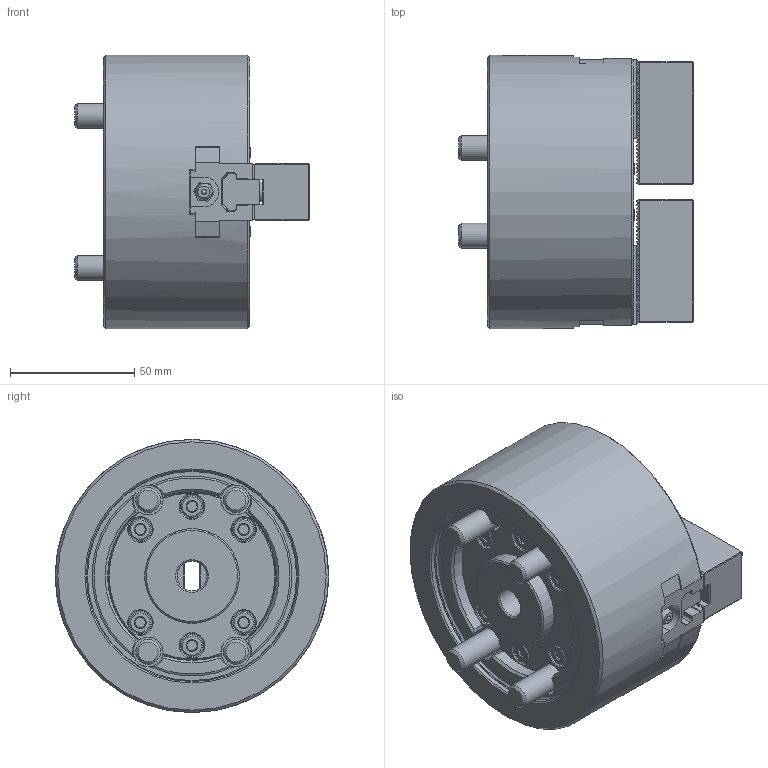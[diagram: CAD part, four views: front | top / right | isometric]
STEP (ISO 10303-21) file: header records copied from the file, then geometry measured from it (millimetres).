
FILE_DESCRIPTION (( 'STEP AP214' ), '1' );
FILE_NAME ('DT1_BT204_OUTSIDE_VIEW_HCL.STEP', '2024-05-08T23:16:08', ( '' ), ( '' ), 'SwSTEP 2.0', 'SolidWorks 2022', '' );
FILE_SCHEMA (( 'AUTOMOTIVE_DESIGN' ));
Length unit declared in the file: millimetre
Products named in the file (9): DT1_BT204_SOFTJAW^DT1-BT204_ﾃﾞﾌｫﾙﾄ; DT1_BT204_BASE^DT1-BT204_ﾃﾞﾌｫﾙﾄ; DT1_BT204_M4x8^DT1-BT204_ﾃﾞﾌｫﾙﾄ; DT1_BT204_M10x60^DT1-BT204_ﾃﾞﾌｫﾙﾄ; DT1_BT204_DRAWNUT^DT1-BT204_ﾃﾞﾌｫﾙﾄ; DT1_BT204_OUTSIDE_VIEW_HCL; DT1_BT204_M8x20^DT1-BT204_ﾃﾞﾌｫﾙﾄ; DT1_BT204_COVER^DT1-BT204_ﾃﾞﾌｫﾙﾄ; DT1_BT204_TNUT^DT1-BT204_ﾃﾞﾌｫﾙﾄ
Assembly tree (19 placements, depth 2):
  DT1_BT204_OUTSIDE_VIEW_HCL
    DT1_BT204_SOFTJAW^DT1-BT204_ﾃﾞﾌｫﾙﾄ  x2
    DT1_BT204_TNUT^DT1-BT204_ﾃﾞﾌｫﾙﾄ  x2
    DT1_BT204_DRAWNUT^DT1-BT204_ﾃﾞﾌｫﾙﾄ
    DT1_BT204_COVER^DT1-BT204_ﾃﾞﾌｫﾙﾄ
    DT1_BT204_BASE^DT1-BT204_ﾃﾞﾌｫﾙﾄ
    DT1_BT204_M4x8^DT1-BT204_ﾃﾞﾌｫﾙﾄ  x4
    DT1_BT204_M8x20^DT1-BT204_ﾃﾞﾌｫﾙﾄ  x4
    DT1_BT204_M10x60^DT1-BT204_ﾃﾞﾌｫﾙﾄ  x4
Bounding box: 94.5 x 110 x 110 mm (x, y, z)
Volume: 536368.2 mm3; surface area: 113407.7 mm2
Topology: 19 solids, 27 shells, 2293 faces, 6316 edges, 4161 vertices
Faces by surface type: plane 1632, cylinder 403, cone 131, bspline 108, torus 15, sphere 4
Full cylindrical faces by diameter (mm): 3.3 x4, 4 x4, 4.5 x4, 6.8 x4, 7.5 x4, 8 x4, 8.5 x8, 8.72 x6, 9.5 x6, 10 x4, 12 x5, 13.27 x4, 13.5 x4, 16.27 x4, 17 x4, 26 x1, 29 x2, 32.5 x1, 35.8 x1, 38 x2, 85 x1, 85.8 x1, 110 x1
Entity records: 61557 total; most frequent: CARTESIAN_POINT 16529, ORIENTED_EDGE 9808, DIRECTION 8183, EDGE_CURVE 4904, LINE 3695, VECTOR 3695, VERTEX_POINT 3298, AXIS2_PLACEMENT_3D 2244
